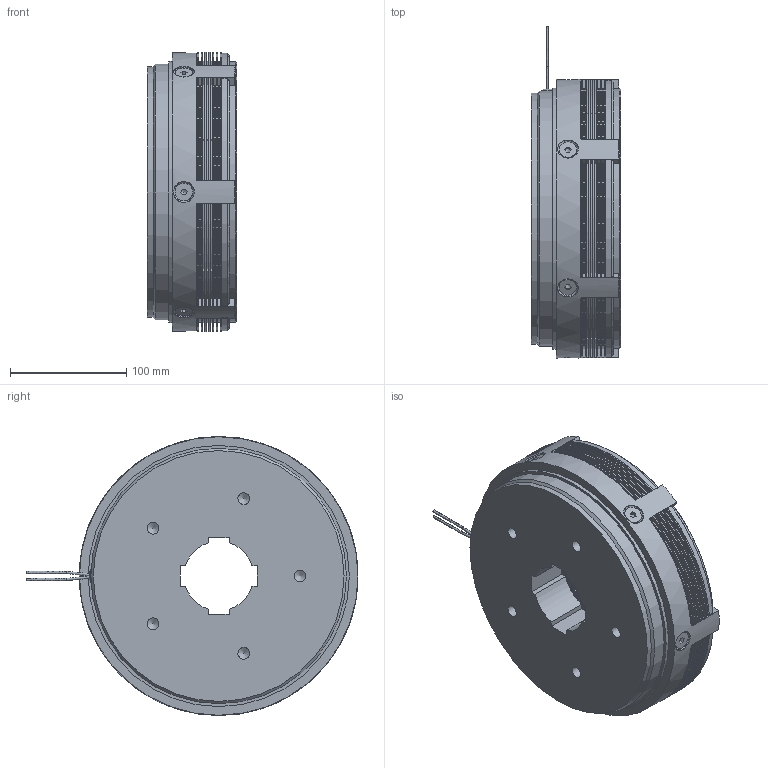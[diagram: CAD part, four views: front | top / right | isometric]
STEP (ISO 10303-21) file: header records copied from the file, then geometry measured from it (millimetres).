
FILE_DESCRIPTION(/* description */ (''),/* implementation_level */ '2;1');
FILE_NAME(/* name */ 'X:\INVENTOR\DISEGNI\05_Friz_Elettmag-Lam\05_06 EC_F\05_06_240_01 EC_F240\05_06_240_01 EC_F240@STEP.stp',/* time_stamp */ '2023-03-10T14:49:27+01:00',/* author */ ('alessio'),/* organization */ (''),/* preprocessor_version */ 'ST-DEVELOPER v18.1',/* originating_system */ 'Autodesk Inventor 2021',/* authorisation */ '');
FILE_SCHEMA (('AUTOMOTIVE_DESIGN { 1 0 10303 214 3 1 1 }'));
Products named in the file (1): 05_06_240_01 EC_F240
Bounding box: 77 x 286 x 240.5 mm (x, y, z)
Volume: 2436233 mm3; surface area: 866910.4 mm2
Topology: 6 solids, 18 shells, 3607 faces, 10714 edges, 7030 vertices
Faces by surface type: cylinder 3028, plane 530, cone 38, torus 6, bspline 5
Full cylindrical faces by diameter (mm): 6.647 x6, 8 x6, 8.5 x6, 10.106 x5, 15.24 x6, 18 x6, 114 x2, 162 x1, 168 x1, 186 x1, 192 x1, 216 x1, 220 x1, 225 x1, 240 x1
Entity records: 128995 total; most frequent: DIRECTION 24036, CARTESIAN_POINT 22605, ORIENTED_EDGE 21408, EDGE_CURVE 10704, AXIS2_PLACEMENT_3D 9853, VERTEX_POINT 7030, CIRCLE 6208, LINE 4330
